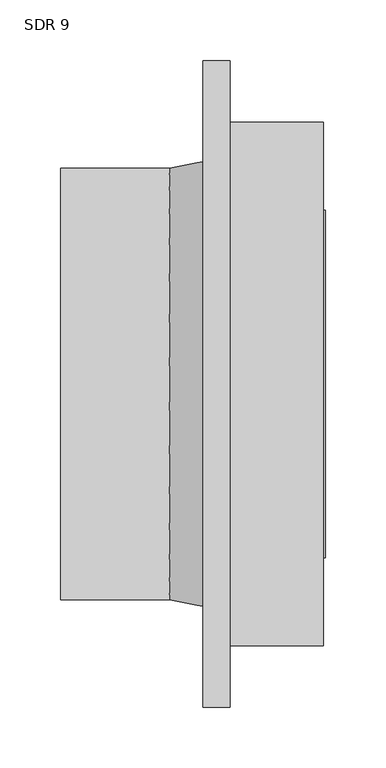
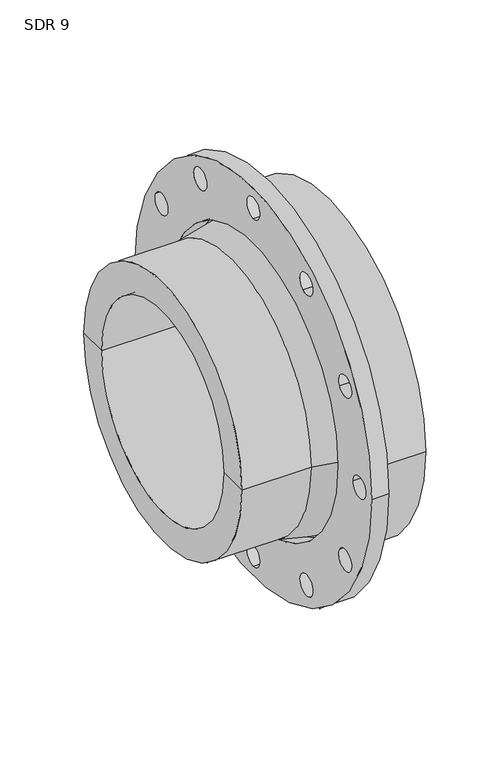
"""IFC4 building model written with IfcOpenShell, lengths in millimetres: valve geometry, Aquatherm - Flange Adapter Butt-Weld : SDR 9."""

from ifc_helpers import new_model, si_unit, point, frame, frame_2d, origin, origin_2d, place, context, project, spatial, polyline, circle_curve, trimmed, segment, composite_curve, outline, extrude, source, transform, mapped, element, save
from ifc_brep_helpers import plane_surface, cylinder_surface, revolved_surface, advanced_brep


def sdr_9_f023a84f(model_context):
    return source(origin(), model_context, "Body", "SolidModel", [
        extrude(outline(composite_curve([segment(trimmed(circle_curve(origin_2d(), 266.7), [point((266.7, 0.0))], [point((-266.7, 0.0))], False, "CARTESIAN"), True, "CONTINUOUS"), segment(trimmed(circle_curve(origin_2d(), 266.7), [point((-266.7, 0.0))], [point((266.7, 0.0))], False, "CARTESIAN"), True, "CONTINUOUS")], self_intersect=False), holes=[composite_curve([segment(trimmed(circle_curve(origin_2d(), 190.5), [point((190.5, 0.0))], [point((-190.5, 0.0))], True, "CARTESIAN"), True, "CONTINUOUS"), segment(trimmed(circle_curve(origin_2d(), 190.5), [point((-190.5, 0.0))], [point((190.5, 0.0))], True, "CARTESIAN"), True, "CONTINUOUS")], self_intersect=False), composite_curve([segment(trimmed(circle_curve(frame_2d((-238.76, 0.0)), 14.351), [point((-224.409, 0.0))], [point((-253.111, 0.0))], True, "CARTESIAN"), True, "CONTINUOUS"), segment(trimmed(circle_curve(frame_2d((-238.76, 0.0)), 14.351), [point((-253.111, 0.0))], [point((-224.409, 0.0))], True, "CARTESIAN"), True, "CONTINUOUS")], self_intersect=False), composite_curve([segment(trimmed(circle_curve(frame_2d((-206.7722254, -119.38)), 14.351), [point((-194.3438948, -112.2045))], [point((-219.200556, -126.5555))], True, "CARTESIAN"), True, "CONTINUOUS"), segment(trimmed(circle_curve(frame_2d((-206.7722254, -119.38)), 14.351), [point((-219.200556, -126.5555))], [point((-194.3438948, -112.2045))], True, "CARTESIAN"), True, "CONTINUOUS")], self_intersect=False), composite_curve([segment(trimmed(circle_curve(frame_2d((-206.7722254, 119.38)), 14.351), [point((-194.3438948, 112.2045))], [point((-219.200556, 126.5555))], True, "CARTESIAN"), True, "CONTINUOUS"), segment(trimmed(circle_curve(frame_2d((-206.7722254, 119.38)), 14.351), [point((-219.200556, 126.5555))], [point((-194.3438948, 112.2045))], True, "CARTESIAN"), True, "CONTINUOUS")], self_intersect=False), composite_curve([segment(trimmed(circle_curve(frame_2d((-119.38, 206.7722254)), 14.351), [point((-112.2045, 194.3438948))], [point((-126.5555, 219.200556))], True, "CARTESIAN"), True, "CONTINUOUS"), segment(trimmed(circle_curve(frame_2d((-119.38, 206.7722254)), 14.351), [point((-126.5555, 219.200556))], [point((-112.2045, 194.3438948))], True, "CARTESIAN"), True, "CONTINUOUS")], self_intersect=False), composite_curve([segment(trimmed(circle_curve(frame_2d((0.0, 238.76)), 14.351), [point((0.0, 224.409))], [point((0.0, 253.111))], True, "CARTESIAN"), True, "CONTINUOUS"), segment(trimmed(circle_curve(frame_2d((0.0, 238.76)), 14.351), [point((0.0, 253.111))], [point((0.0, 224.409))], True, "CARTESIAN"), True, "CONTINUOUS")], self_intersect=False), composite_curve([segment(trimmed(circle_curve(frame_2d((119.38, 206.7722254)), 14.351), [point((112.2045, 194.3438948))], [point((126.5555, 219.200556))], True, "CARTESIAN"), True, "CONTINUOUS"), segment(trimmed(circle_curve(frame_2d((119.38, 206.7722254)), 14.351), [point((126.5555, 219.200556))], [point((112.2045, 194.3438948))], True, "CARTESIAN"), True, "CONTINUOUS")], self_intersect=False), composite_curve([segment(trimmed(circle_curve(frame_2d((206.7722254, 119.38)), 14.351), [point((194.3438948, 112.2045))], [point((219.200556, 126.5555))], True, "CARTESIAN"), True, "CONTINUOUS"), segment(trimmed(circle_curve(frame_2d((206.7722254, 119.38)), 14.351), [point((219.200556, 126.5555))], [point((194.3438948, 112.2045))], True, "CARTESIAN"), True, "CONTINUOUS")], self_intersect=False), composite_curve([segment(trimmed(circle_curve(frame_2d((238.76, 0.0)), 14.351), [point((224.409, 0.0))], [point((253.111, 0.0))], True, "CARTESIAN"), True, "CONTINUOUS"), segment(trimmed(circle_curve(frame_2d((238.76, 0.0)), 14.351), [point((253.111, 0.0))], [point((224.409, 0.0))], True, "CARTESIAN"), True, "CONTINUOUS")], self_intersect=False), composite_curve([segment(trimmed(circle_curve(frame_2d((206.7722254, -119.38)), 14.351), [point((194.3438948, -112.2045))], [point((219.200556, -126.5555))], True, "CARTESIAN"), True, "CONTINUOUS"), segment(trimmed(circle_curve(frame_2d((206.7722254, -119.38)), 14.351), [point((219.200556, -126.5555))], [point((194.3438948, -112.2045))], True, "CARTESIAN"), True, "CONTINUOUS")], self_intersect=False), composite_curve([segment(trimmed(circle_curve(frame_2d((119.38, -206.7722254)), 14.351), [point((112.2045, -194.3438948))], [point((126.5555, -219.200556))], True, "CARTESIAN"), True, "CONTINUOUS"), segment(trimmed(circle_curve(frame_2d((119.38, -206.7722254)), 14.351), [point((126.5555, -219.200556))], [point((112.2045, -194.3438948))], True, "CARTESIAN"), True, "CONTINUOUS")], self_intersect=False), composite_curve([segment(trimmed(circle_curve(frame_2d((0.0, -238.76)), 14.351), [point((0.0, -224.409))], [point((0.0, -253.111))], True, "CARTESIAN"), True, "CONTINUOUS"), segment(trimmed(circle_curve(frame_2d((0.0, -238.76)), 14.351), [point((0.0, -253.111))], [point((0.0, -224.409))], True, "CARTESIAN"), True, "CONTINUOUS")], self_intersect=False), composite_curve([segment(trimmed(circle_curve(frame_2d((-119.38, -206.7722254)), 14.351), [point((-112.2045, -194.3438948))], [point((-126.5555, -219.200556))], True, "CARTESIAN"), True, "CONTINUOUS"), segment(trimmed(circle_curve(frame_2d((-119.38, -206.7722254)), 14.351), [point((-126.5555, -219.200556))], [point((-112.2045, -194.3438948))], True, "CARTESIAN"), True, "CONTINUOUS")], self_intersect=False)]), frame((-22.352, 0.0, 0.0), z_axis=(1.0, 0.0, 0.0), x_axis=(0.0, 1.0, 0.0)), (0.0, 0.0, 1.0), 22.352),
        advanced_brep(
        [(76.962, -215.9, 0.0), (0.0, -215.9, 0.0), (0.0, 215.9, 0.0), (76.962, 215.9, 0.0), (78.5495, -138.176, 0.0), (78.5495, -143.256, 0.0), (78.5495, 143.256, 0.0), (78.5495, 138.176, 0.0), (-139.954, -138.176, 0.0), (-139.954, 138.176, 0.0), (-139.954, -177.8, 0.0), (-139.954, 177.8, 0.0), (-50.038, -177.8, 0.0), (-50.038, 177.8, 0.0), (0.0, -187.96, 0.0), (0.0, 187.96, 0.0), (76.962, -143.256, 0.0), (76.962, 143.256, 0.0)],
        [
            (0, 1),
            (1, 2, circle_curve(frame((0.0, 0.0, 0.0), z_axis=(1.0, 0.0, 0.0), x_axis=(0.0, 1.0, 0.0)), 215.9)),
            (2, 3),
            (3, 0, circle_curve(frame((76.962, 0.0, 0.0), z_axis=(-1.0, 0.0, 0.0), x_axis=(0.0, 1.0, 0.0)), 215.9)),
            (2, 1, circle_curve(frame((0.0, 0.0, 0.0), z_axis=(1.0, 0.0, 0.0), x_axis=(0.0, 1.0, 0.0)), 215.9)),
            (0, 3, circle_curve(frame((76.962, 0.0, 0.0), z_axis=(-1.0, 0.0, 0.0), x_axis=(0.0, 1.0, 0.0)), 215.9)),
            (4, 5),
            (5, 6, circle_curve(frame((78.5495, 0.0, 0.0), z_axis=(1.0, 0.0, 0.0), x_axis=(0.0, 1.0, 0.0)), 143.256)),
            (6, 7),
            (7, 4, circle_curve(frame((78.5495, 0.0, 0.0), z_axis=(-1.0, 0.0, 0.0), x_axis=(0.0, 1.0, 0.0)), 138.176)),
            (6, 5, circle_curve(frame((78.5495, 0.0, 0.0), z_axis=(1.0, 0.0, 0.0), x_axis=(0.0, 1.0, 0.0)), 143.256)),
            (4, 7, circle_curve(frame((78.5495, 0.0, 0.0), z_axis=(-1.0, 0.0, 0.0), x_axis=(0.0, 1.0, 0.0)), 138.176)),
            (8, 4),
            (7, 9),
            (9, 8, circle_curve(frame((-139.954, 0.0, 0.0), z_axis=(-1.0, 0.0, 0.0), x_axis=(0.0, 1.0, 0.0)), 138.176)),
            (8, 9, circle_curve(frame((-139.954, 0.0, 0.0), z_axis=(-1.0, 0.0, 0.0), x_axis=(0.0, 1.0, 0.0)), 138.176)),
            (10, 8),
            (9, 11),
            (11, 10, circle_curve(frame((-139.954, 0.0, 0.0), z_axis=(-1.0, 0.0, 0.0), x_axis=(0.0, 1.0, 0.0)), 177.8)),
            (10, 11, circle_curve(frame((-139.954, 0.0, 0.0), z_axis=(-1.0, 0.0, 0.0), x_axis=(0.0, 1.0, 0.0)), 177.8)),
            (12, 10),
            (11, 13),
            (13, 12, circle_curve(frame((-50.038, 0.0, 0.0), z_axis=(-1.0, 0.0, 0.0), x_axis=(0.0, 1.0, 0.0)), 177.8)),
            (12, 13, circle_curve(frame((-50.038, 0.0, 0.0), z_axis=(-1.0, 0.0, 0.0), x_axis=(0.0, 1.0, 0.0)), 177.8)),
            (1, 14),
            (14, 15, circle_curve(frame((0.0, 0.0, 0.0), z_axis=(1.0, 0.0, 0.0), x_axis=(0.0, 1.0, 0.0)), 187.96)),
            (15, 2),
            (15, 14, circle_curve(frame((0.0, 0.0, 0.0), z_axis=(1.0, 0.0, 0.0), x_axis=(0.0, 1.0, 0.0)), 187.96)),
            (16, 0),
            (3, 17),
            (17, 16, circle_curve(frame((76.962, 0.0, 0.0), z_axis=(-1.0, 0.0, 0.0), x_axis=(0.0, 1.0, 0.0)), 143.256)),
            (16, 17, circle_curve(frame((76.962, 0.0, 0.0), z_axis=(-1.0, 0.0, 0.0), x_axis=(0.0, 1.0, 0.0)), 143.256)),
            (5, 16),
            (17, 6),
            (14, 12),
            (13, 15),
        ],
        [
            cylinder_surface(frame((1517.6009321, 0.0, 0.0), z_axis=(1.0, 0.0, 0.0), x_axis=(0.0, 1.0, 0.0)), 215.9),
            plane_surface(frame((78.5495, 0.0, 0.0), z_axis=(1.0, 0.0, 0.0), x_axis=(0.0, 1.0, 0.0))),
            revolved_surface(polyline([(78.54950000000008, 138.176, 0.0), (-139.95399999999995, 138.176, 0.0)]), (1517.6009321, 0.0, 0.0), (1.0, 0.0, 0.0)),
            plane_surface(frame((-139.954, 0.0, 0.0), z_axis=(-1.0, 0.0, 0.0), x_axis=(0.0, 1.0, 0.0))),
            cylinder_surface(frame((1517.6009321, 0.0, 0.0), z_axis=(1.0, 0.0, 0.0), x_axis=(0.0, 1.0, 0.0)), 177.8),
            plane_surface(frame((0.0, 0.0, 0.0), z_axis=(-1.0, 0.0, 0.0), x_axis=(0.0, 1.0, 0.0))),
            plane_surface(frame((76.962, 0.0, 0.0), z_axis=(1.0, 0.0, 0.0), x_axis=(0.0, 1.0, 0.0))),
            cylinder_surface(frame((1517.6009321, 0.0, 0.0), z_axis=(1.0, 0.0, 0.0), x_axis=(0.0, 1.0, 0.0)), 143.256),
            revolved_surface(polyline([(-50.038, 177.8, 0.0), (0.0, 187.96, 0.0)]), (1517.6009321, 0.0, 0.0), (1.0, 0.0, 0.0)),
        ],
        [
            (0, [[1, 2, 3, 4]]),
            (0, [[-3, 5, -1, 6]]),
            (1, [[7, 8, 9, 10]]),
            (1, [[-9, 11, -7, 12]]),
            (2, [[13, -10, 14, 15]]),
            (2, [[-14, -12, -13, 16]]),
            (3, [[17, -15, 18, 19]]),
            (3, [[-18, -16, -17, 20]]),
            (4, [[21, -19, 22, 23]]),
            (4, [[-22, -20, -21, 24]]),
            (5, [[25, 26, 27, -2]]),
            (5, [[-27, 28, -25, -5]]),
            (6, [[29, -4, 30, 31]]),
            (6, [[-30, -6, -29, 32]]),
            (7, [[33, -31, 34, -8]]),
            (7, [[-34, -32, -33, -11]]),
            (8, [[35, -23, 36, -26]]),
            (8, [[-36, -24, -35, -28]]),
        ],
    ),
    ])


if __name__ == "__main__":
    model = new_model("IFC4")
    model_context = context("Model", 3, world=origin())
    ifc_project = project(units=[si_unit("LENGTHUNIT", "METRE", prefix="MILLI")], contexts=[model_context])
    site = spatial("IfcSite", under=ifc_project)
    building = spatial("IfcBuilding", under=site)
    placement = place(None, origin())
    sdr_9_shape = sdr_9_f023a84f(model_context)
    element("IfcValve", 1, ObjectType="Aquatherm - Flange Adapter Butt-Weld : SDR 9", at=placement, inside=building, context=model_context, shape_type="MappedRepresentation", body=[
        mapped(sdr_9_shape, transform((0.0, 0.0, 0.0), x_axis=(1.0, 0.0, 0.0), y_axis=(0.0, 1.0, 0.0), z_axis=(0.0, 0.0, 1.0))),
    ])
    save(model, "model.ifc")
